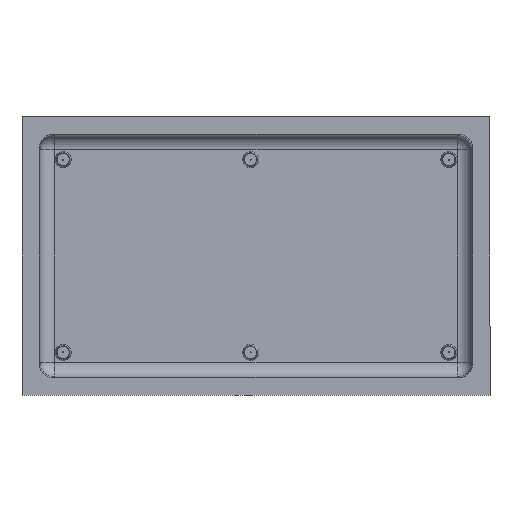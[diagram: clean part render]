
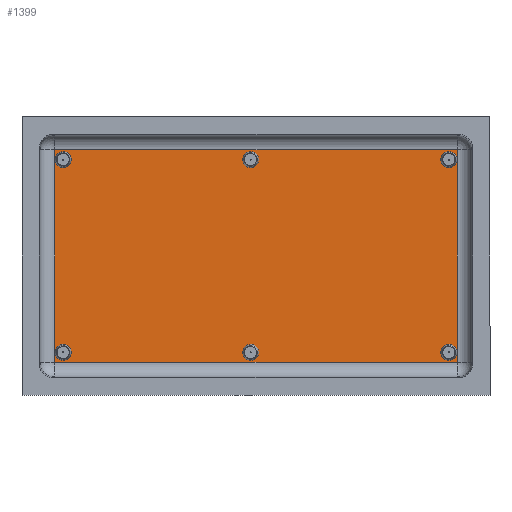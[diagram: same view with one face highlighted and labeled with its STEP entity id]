
A CAD part, front view. The second image highlights one B-rep face of the part: STEP entity #1399.
In plain terms, the highlighted planar face has unit normal (0, -1, 0).
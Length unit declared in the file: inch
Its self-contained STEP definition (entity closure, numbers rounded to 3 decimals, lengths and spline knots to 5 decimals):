
#19 = ORIENTED_EDGE ( 'NONE', *, *, #299, .F. ) ;
#29 = CARTESIAN_POINT ( 'NONE',  ( 9., 1.79, -4.5 ) ) ;
#50 = LINE ( 'NONE', #703, #632 ) ;
#51 = CARTESIAN_POINT ( 'NONE',  ( 9., 1.79, -4.5 ) ) ;
#56 = VERTEX_POINT ( 'NONE', #126 ) ;
#57 = LINE ( 'NONE', #1386, #1565 ) ;
#58 = EDGE_CURVE ( 'NONE', #56, #210, #679, .T. ) ;
#61 = DIRECTION ( 'NONE',  ( 0., -1., 0. ) ) ;
#62 = CARTESIAN_POINT ( 'NONE',  ( 10.33, 1.79, -5.9 ) ) ;
#80 = VERTEX_POINT ( 'NONE', #1520 ) ;
#96 = ORIENTED_EDGE ( 'NONE', *, *, #1351, .F. ) ;
#99 = CIRCLE ( 'NONE', #1615, 0.375 ) ;
#106 = AXIS2_PLACEMENT_3D ( 'NONE', #949, #1655, #1401 ) ;
#108 = CIRCLE ( 'NONE', #332, 0.375 ) ;
#113 = CARTESIAN_POINT ( 'NONE',  ( -9.39104, 1.79, -4.96104 ) ) ;
#126 = CARTESIAN_POINT ( 'NONE',  ( -9., 1.79, -4.875 ) ) ;
#127 = AXIS2_PLACEMENT_3D ( 'NONE', #809, #251, #387 ) ;
#130 = CIRCLE ( 'NONE', #887, 0.375 ) ;
#135 = EDGE_CURVE ( 'NONE', #869, #401, #99, .T. ) ;
#141 = CARTESIAN_POINT ( 'NONE',  ( -0.25, 1.79, 4.875 ) ) ;
#142 = EDGE_CURVE ( 'NONE', #1498, #1581, #379, .T. ) ;
#148 = EDGE_CURVE ( 'NONE', #828, #882, #1023, .T. ) ;
#158 = DIRECTION ( 'NONE',  ( 0., -1., 0. ) ) ;
#164 = EDGE_CURVE ( 'NONE', #401, #869, #1357, .T. ) ;
#194 = CARTESIAN_POINT ( 'NONE',  ( 10.33, 1.79, 4.96104 ) ) ;
#198 = ORIENTED_EDGE ( 'NONE', *, *, #1513, .F. ) ;
#204 = EDGE_CURVE ( 'NONE', #1438, #737, #352, .T. ) ;
#209 = AXIS2_PLACEMENT_3D ( 'NONE', #51, #840, #585 ) ;
#210 = VERTEX_POINT ( 'NONE', #841 ) ;
#217 = EDGE_LOOP ( 'NONE', ( #19, #1178 ) ) ;
#225 = ORIENTED_EDGE ( 'NONE', *, *, #148, .F. ) ;
#246 = CARTESIAN_POINT ( 'NONE',  ( 9., 1.79, -4.125 ) ) ;
#251 = DIRECTION ( 'NONE',  ( 0., -1., 0. ) ) ;
#290 = EDGE_CURVE ( 'NONE', #1465, #80, #1105, .T. ) ;
#299 = EDGE_CURVE ( 'NONE', #737, #1438, #1306, .T. ) ;
#312 = CARTESIAN_POINT ( 'NONE',  ( -9., 1.79, 4.5 ) ) ;
#332 = AXIS2_PLACEMENT_3D ( 'NONE', #1683, #888, #1721 ) ;
#352 = CIRCLE ( 'NONE', #1189, 0.375 ) ;
#367 = CARTESIAN_POINT ( 'NONE',  ( -0.25, 1.79, -4.875 ) ) ;
#370 = CARTESIAN_POINT ( 'NONE',  ( -0.25, 1.79, 4.125 ) ) ;
#379 = CIRCLE ( 'NONE', #1075, 0.375 ) ;
#387 = DIRECTION ( 'NONE',  ( 0., 0., 1. ) ) ;
#401 = VERTEX_POINT ( 'NONE', #614 ) ;
#428 = DIRECTION ( 'NONE',  ( 0., -1., 0. ) ) ;
#429 = FACE_BOUND ( 'NONE', #1286, .T. ) ;
#445 = ORIENTED_EDGE ( 'NONE', *, *, #675, .F. ) ;
#459 = FACE_BOUND ( 'NONE', #1416, .T. ) ;
#519 = VECTOR ( 'NONE', #1638, 39.37008 ) ;
#532 = DIRECTION ( 'NONE',  ( 0., 0., 1. ) ) ;
#579 = CARTESIAN_POINT ( 'NONE',  ( -9., 1.79, 4.5 ) ) ;
#580 = LINE ( 'NONE', #194, #777 ) ;
#585 = DIRECTION ( 'NONE',  ( 0., 0., 1. ) ) ;
#592 = EDGE_LOOP ( 'NONE', ( #1553, #890 ) ) ;
#614 = CARTESIAN_POINT ( 'NONE',  ( 9., 1.79, -4.875 ) ) ;
#621 = VERTEX_POINT ( 'NONE', #693 ) ;
#626 = EDGE_CURVE ( 'NONE', #1674, #1026, #50, .T. ) ;
#632 = VECTOR ( 'NONE', #1636, 39.37008 ) ;
#652 = CARTESIAN_POINT ( 'NONE',  ( -9., 1.79, -4.5 ) ) ;
#675 = EDGE_CURVE ( 'NONE', #882, #828, #1455, .T. ) ;
#679 = CIRCLE ( 'NONE', #959, 0.375 ) ;
#693 = CARTESIAN_POINT ( 'NONE',  ( 9., 1.79, 4.125 ) ) ;
#697 = DIRECTION ( 'NONE',  ( 0., 0., 1. ) ) ;
#699 = EDGE_CURVE ( 'NONE', #1026, #1465, #57, .T. ) ;
#703 = CARTESIAN_POINT ( 'NONE',  ( 9.39104, 1.79, -5.9 ) ) ;
#706 = DIRECTION ( 'NONE',  ( 0., 0., 1. ) ) ;
#737 = VERTEX_POINT ( 'NONE', #1698 ) ;
#757 = ORIENTED_EDGE ( 'NONE', *, *, #889, .F. ) ;
#773 = CARTESIAN_POINT ( 'NONE',  ( -0.25, 1.79, -4.125 ) ) ;
#777 = VECTOR ( 'NONE', #862, 39.37008 ) ;
#807 = ORIENTED_EDGE ( 'NONE', *, *, #164, .F. ) ;
#809 = CARTESIAN_POINT ( 'NONE',  ( 9., 1.79, 4.5 ) ) ;
#820 = CARTESIAN_POINT ( 'NONE',  ( -0.25, 1.79, 4.5 ) ) ;
#828 = VERTEX_POINT ( 'NONE', #370 ) ;
#835 = FACE_BOUND ( 'NONE', #592, .T. ) ;
#840 = DIRECTION ( 'NONE',  ( 0., -1., 0. ) ) ;
#841 = CARTESIAN_POINT ( 'NONE',  ( -9., 1.79, -4.125 ) ) ;
#842 = CARTESIAN_POINT ( 'NONE',  ( -9., 1.79, 4.875 ) ) ;
#847 = CARTESIAN_POINT ( 'NONE',  ( -0.25, 1.79, -4.5 ) ) ;
#849 = DIRECTION ( 'NONE',  ( 0., -1., 0. ) ) ;
#862 = DIRECTION ( 'NONE',  ( 1., 0., 0. ) ) ;
#869 = VERTEX_POINT ( 'NONE', #246 ) ;
#882 = VERTEX_POINT ( 'NONE', #141 ) ;
#887 = AXIS2_PLACEMENT_3D ( 'NONE', #1411, #1276, #1390 ) ;
#888 = DIRECTION ( 'NONE',  ( 0., -1., 0. ) ) ;
#889 = EDGE_CURVE ( 'NONE', #621, #1044, #1083, .T. ) ;
#890 = ORIENTED_EDGE ( 'NONE', *, *, #1418, .F. ) ;
#948 = EDGE_LOOP ( 'NONE', ( #757, #198 ) ) ;
#949 = CARTESIAN_POINT ( 'NONE',  ( -0.25, 1.79, 4.5 ) ) ;
#959 = AXIS2_PLACEMENT_3D ( 'NONE', #652, #1740, #532 ) ;
#987 = PLANE ( 'NONE',  #1676 ) ;
#998 = CIRCLE ( 'NONE', #1032, 0.375 ) ;
#1007 = ORIENTED_EDGE ( 'NONE', *, *, #135, .F. ) ;
#1023 = CIRCLE ( 'NONE', #1528, 0.375 ) ;
#1026 = VERTEX_POINT ( 'NONE', #1642 ) ;
#1032 = AXIS2_PLACEMENT_3D ( 'NONE', #1382, #849, #706 ) ;
#1044 = VERTEX_POINT ( 'NONE', #1517 ) ;
#1075 = AXIS2_PLACEMENT_3D ( 'NONE', #847, #158, #1236 ) ;
#1083 = CIRCLE ( 'NONE', #127, 0.375 ) ;
#1098 = DIRECTION ( 'NONE',  ( 0., -1., 0. ) ) ;
#1105 = LINE ( 'NONE', #1521, #519 ) ;
#1118 = DIRECTION ( 'NONE',  ( 0., 0., 1. ) ) ;
#1121 = ORIENTED_EDGE ( 'NONE', *, *, #290, .F. ) ;
#1125 = DIRECTION ( 'NONE',  ( 0., 1., 0. ) ) ;
#1178 = ORIENTED_EDGE ( 'NONE', *, *, #204, .F. ) ;
#1189 = AXIS2_PLACEMENT_3D ( 'NONE', #579, #61, #1264 ) ;
#1236 = DIRECTION ( 'NONE',  ( 0., 0., 1. ) ) ;
#1247 = ORIENTED_EDGE ( 'NONE', *, *, #58, .F. ) ;
#1264 = DIRECTION ( 'NONE',  ( 0., 0., 1. ) ) ;
#1265 = FACE_BOUND ( 'NONE', #1610, .T. ) ;
#1276 = DIRECTION ( 'NONE',  ( 0., -1., 0. ) ) ;
#1286 = EDGE_LOOP ( 'NONE', ( #225, #445 ) ) ;
#1306 = CIRCLE ( 'NONE', #1669, 0.375 ) ;
#1351 = EDGE_CURVE ( 'NONE', #80, #1674, #580, .T. ) ;
#1357 = CIRCLE ( 'NONE', #209, 0.375 ) ;
#1362 = DIRECTION ( 'NONE',  ( 0., 0., 1. ) ) ;
#1382 = CARTESIAN_POINT ( 'NONE',  ( -9., 1.79, -4.5 ) ) ;
#1386 = CARTESIAN_POINT ( 'NONE',  ( 10.33, 1.79, -4.96104 ) ) ;
#1390 = DIRECTION ( 'NONE',  ( 0., 0., 1. ) ) ;
#1399 = ADVANCED_FACE ( 'NONE', ( #835, #1515, #1522, #1639, #429, #1265, #459 ), #987, .F. ) ;
#1401 = DIRECTION ( 'NONE',  ( 0., 0., 1. ) ) ;
#1411 = CARTESIAN_POINT ( 'NONE',  ( -0.25, 1.79, -4.5 ) ) ;
#1416 = EDGE_LOOP ( 'NONE', ( #1007, #807 ) ) ;
#1418 = EDGE_CURVE ( 'NONE', #1581, #1498, #130, .T. ) ;
#1438 = VERTEX_POINT ( 'NONE', #842 ) ;
#1446 = EDGE_CURVE ( 'NONE', #210, #56, #998, .T. ) ;
#1455 = CIRCLE ( 'NONE', #106, 0.375 ) ;
#1465 = VERTEX_POINT ( 'NONE', #113 ) ;
#1498 = VERTEX_POINT ( 'NONE', #773 ) ;
#1499 = DIRECTION ( 'NONE',  ( -1., 0., 0. ) ) ;
#1502 = DIRECTION ( 'NONE',  ( 0., -1., 0. ) ) ;
#1513 = EDGE_CURVE ( 'NONE', #1044, #621, #108, .T. ) ;
#1515 = FACE_BOUND ( 'NONE', #217, .T. ) ;
#1517 = CARTESIAN_POINT ( 'NONE',  ( 9., 1.79, 4.875 ) ) ;
#1520 = CARTESIAN_POINT ( 'NONE',  ( -9.39104, 1.79, 4.96104 ) ) ;
#1521 = CARTESIAN_POINT ( 'NONE',  ( -9.39104, 1.79, -5.9 ) ) ;
#1522 = FACE_BOUND ( 'NONE', #948, .T. ) ;
#1528 = AXIS2_PLACEMENT_3D ( 'NONE', #820, #1502, #1656 ) ;
#1553 = ORIENTED_EDGE ( 'NONE', *, *, #142, .F. ) ;
#1565 = VECTOR ( 'NONE', #1499, 39.37008 ) ;
#1572 = EDGE_LOOP ( 'NONE', ( #1736, #96, #1121, #1702 ) ) ;
#1581 = VERTEX_POINT ( 'NONE', #367 ) ;
#1610 = EDGE_LOOP ( 'NONE', ( #1640, #1247 ) ) ;
#1615 = AXIS2_PLACEMENT_3D ( 'NONE', #29, #1098, #1362 ) ;
#1636 = DIRECTION ( 'NONE',  ( 0., 0., -1. ) ) ;
#1638 = DIRECTION ( 'NONE',  ( 0., 0., 1. ) ) ;
#1639 = FACE_OUTER_BOUND ( 'NONE', #1572, .T. ) ;
#1640 = ORIENTED_EDGE ( 'NONE', *, *, #1446, .F. ) ;
#1642 = CARTESIAN_POINT ( 'NONE',  ( 9.39104, 1.79, -4.96104 ) ) ;
#1655 = DIRECTION ( 'NONE',  ( 0., -1., 0. ) ) ;
#1656 = DIRECTION ( 'NONE',  ( 0., 0., 1. ) ) ;
#1669 = AXIS2_PLACEMENT_3D ( 'NONE', #312, #428, #1118 ) ;
#1674 = VERTEX_POINT ( 'NONE', #1739 ) ;
#1676 = AXIS2_PLACEMENT_3D ( 'NONE', #62, #1125, #697 ) ;
#1683 = CARTESIAN_POINT ( 'NONE',  ( 9., 1.79, 4.5 ) ) ;
#1698 = CARTESIAN_POINT ( 'NONE',  ( -9., 1.79, 4.125 ) ) ;
#1702 = ORIENTED_EDGE ( 'NONE', *, *, #699, .F. ) ;
#1721 = DIRECTION ( 'NONE',  ( 0., 0., 1. ) ) ;
#1736 = ORIENTED_EDGE ( 'NONE', *, *, #626, .F. ) ;
#1739 = CARTESIAN_POINT ( 'NONE',  ( 9.39104, 1.79, 4.96104 ) ) ;
#1740 = DIRECTION ( 'NONE',  ( 0., -1., 0. ) ) ;
